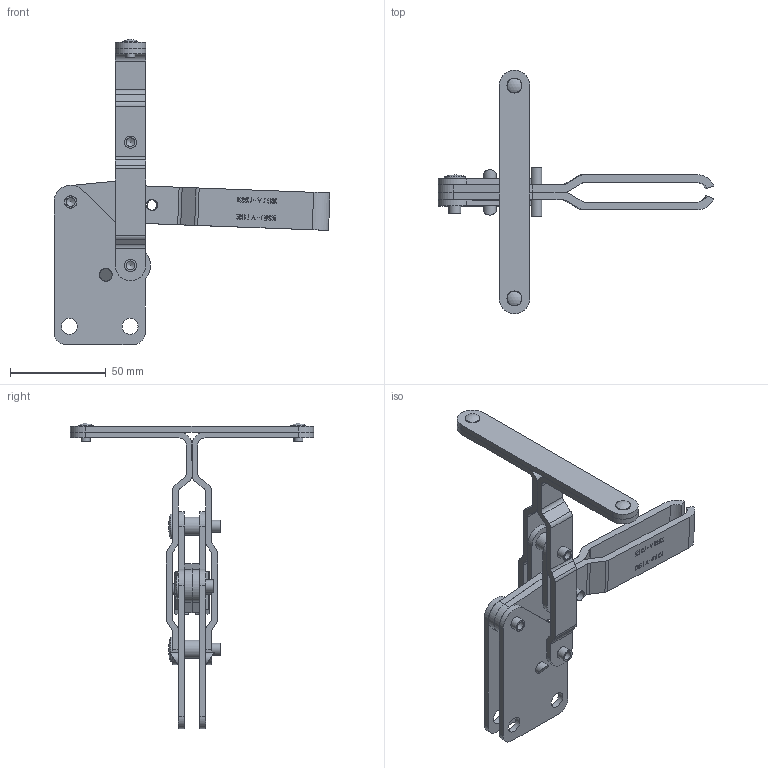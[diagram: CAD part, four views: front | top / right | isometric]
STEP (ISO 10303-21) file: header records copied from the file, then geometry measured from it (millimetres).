
FILE_DESCRIPTION(/* description */ (''),/* implementation_level */ '2;1');
FILE_NAME(/* name */ 'ts-600',/* time_stamp */ '2004-04-08T10:38:12-04:00',/* author */ (''),/* organization */ (''),/* preprocessor_version */ 'ST-DEVELOPER v9',/* originating_system */ 'EDS PLM SOLUTIONS - UNIGRAPHICS NX 1.0',/* authorisation */ '');
FILE_SCHEMA (('AUTOMOTIVE_DESIGN { 1 0 10303 214 0 1 1 1 }'));
Length unit declared in the file: inch
Products named in the file (1): mfur8F8C002r
Bounding box: 143.98 x 127.03 x 159.33 mm (x, y, z)
Volume: 142471.4 mm3; surface area: 112250.2 mm2
Topology: 36 solids, 36 shells, 1886 faces, 5076 edges, 3388 vertices
Faces by surface type: plane 1610, cylinder 232, torus 20, cone 12, bspline 8, sphere 4
Full cylindrical faces by diameter (mm): 3.353 x4, 4.572 x8, 4.724 x4, 4.851 x4, 4.953 x4, 5.41 x2, 5.537 x4, 5.563 x2, 6.299 x8, 6.426 x20, 6.452 x4, 6.604 x4, 8.382 x8, 9.525 x12, 9.601 x4
Entity records: 57775 total; most frequent: CARTESIAN_POINT 10331, ORIENTED_EDGE 9768, DIRECTION 9138, EDGE_CURVE 4884, LINE 4388, VECTOR 4388, VERTEX_POINT 3344, AXIS2_PLACEMENT_3D 2375
